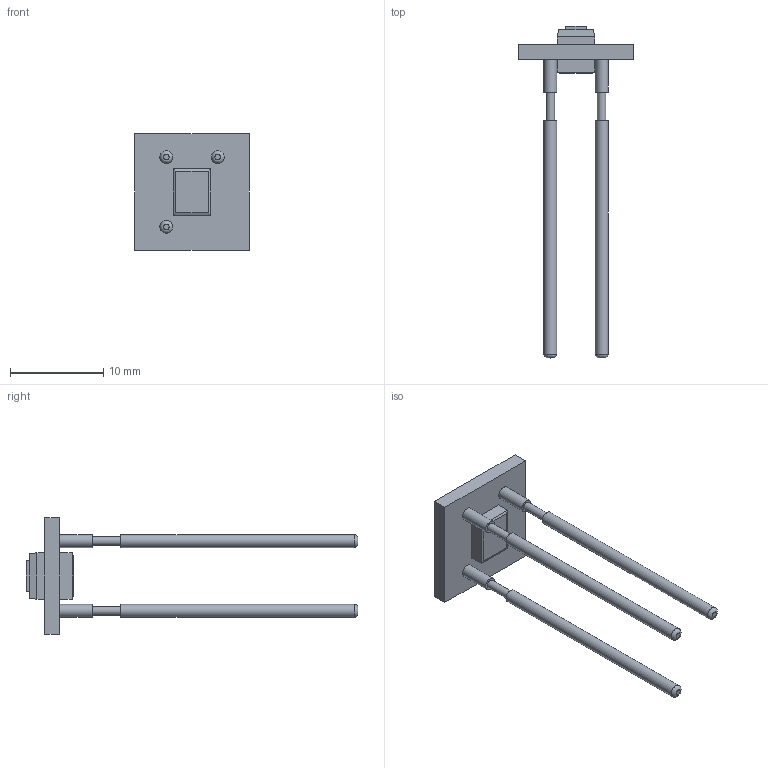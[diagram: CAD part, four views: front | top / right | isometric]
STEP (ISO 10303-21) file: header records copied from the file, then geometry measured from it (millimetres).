
FILE_DESCRIPTION(/* description */ (''),/* implementation_level */ '2;1');
FILE_NAME(/* name */ 'C:/Users/sorto/Desktop/SF_RA.step',/* time_stamp */ '2020-10-05T13:38:41-05:00',/* author */ (''),/* organization */ (''),/* preprocessor_version */ 'ST-DEVELOPER v18.1',/* originating_system */ 'Autodesk Translation Framework v9.3.0.1241',/* authorisation */ '');
FILE_SCHEMA (('AUTOMOTIVE_DESIGN { 1 0 10303 214 3 1 1 }'));
Length unit declared in the file: inch
Products named in the file (1): SF_RA
Bounding box: 12.22 x 35.56 x 12.48 mm (x, y, z)
Volume: 437.9 mm3; surface area: 980.7 mm2
Topology: 10 solids, 10 shells, 62 faces, 109 edges, 70 vertices
Faces by surface type: plane 47, cylinder 12, bspline 3
Full cylindrical faces by diameter (mm): 0.914 x3, 1.372 x9
Entity records: 1635 total; most frequent: CARTESIAN_POINT 320, DIRECTION 262, ORIENTED_EDGE 218, EDGE_CURVE 109, AXIS2_PLACEMENT_3D 93, LINE 76, VECTOR 76, EDGE_LOOP 71
